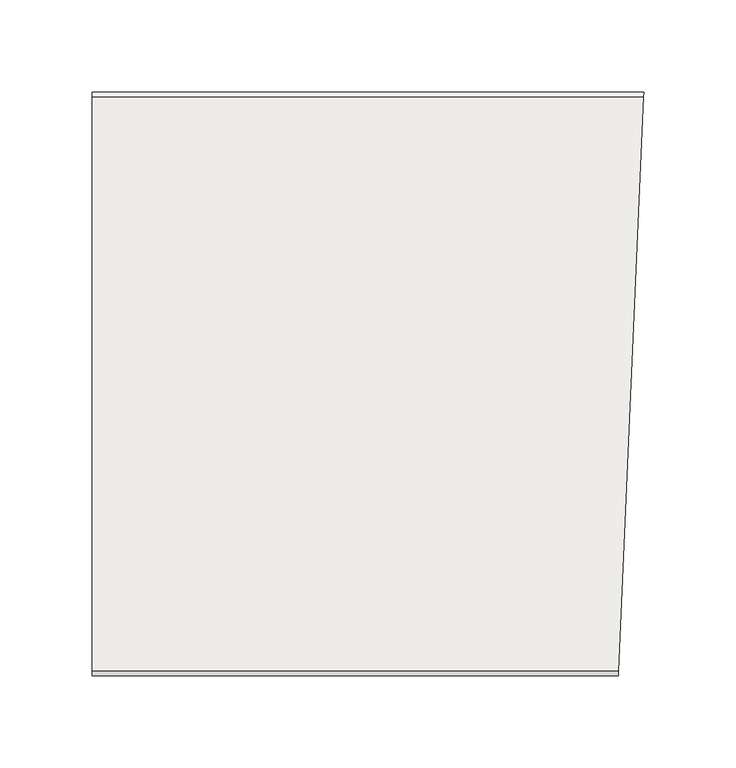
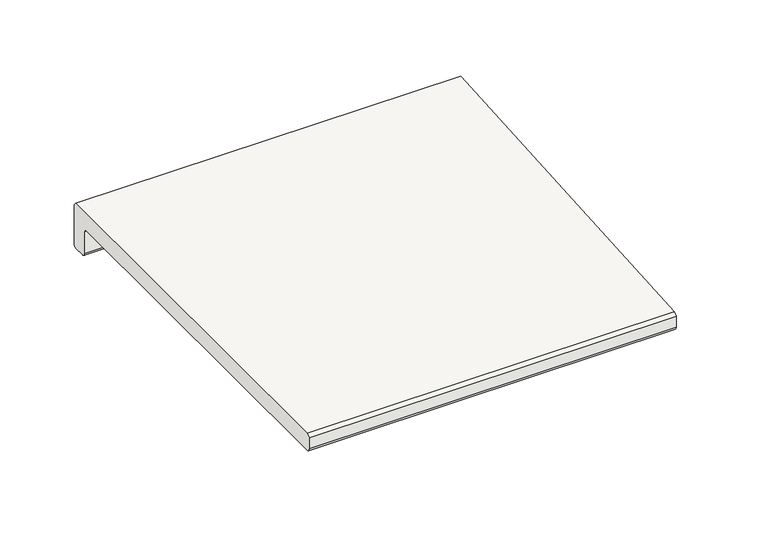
"""IFC4 building model written with IfcOpenShell, lengths in millimetres: slab geometry, ROSA GRES_L62 (corte) : Pieza L62_Serena_Ocra_Anti-Slip."""

from ifc_helpers import new_model, si_unit, frame, origin, place, context, project, spatial, polyline, circle_curve, ellipse_curve, source, transform, mapped, element, save
from ifc_brep_helpers import plane_surface, cylinder_surface, revolved_surface, advanced_brep


def slab_ac410272(model_context):
    return source(origin(), model_context, "Body", "AdvancedBrep", [
        advanced_brep(
        [(0.0, 0.0, -20.5), (0.0, -2.5, -23.0), (0.0, -11.5, -23.0), (0.0, -14.0, -20.5), (0.0, -14.0, -2.5), (0.0, -16.5, 0.0), (0.0, -314.5, 0.0), (0.0, -317.0, 2.5), (0.0, -317.0, 11.5), (0.0, -314.5, 14.0), (0.0, -2.5, 14.0), (0.0, 0.0, 11.5), (299.6725429, -2.5, 14.0), (299.7816953, 0.0, 11.5), (285.9411764, -317.0, 11.5), (286.0503287, -314.5, 14.0), (299.6725429, -2.5, -23.0), (299.2795944, -11.5, -23.0), (286.0503287, -314.5, 0.0), (285.9411764, -317.0, 2.5), (299.7816953, 0.0, -20.5), (299.1704421, -14.0, -20.5), (299.0612897, -16.5, 0.0), (299.1704421, -14.0, -2.5)],
        [
            (0, 1, circle_curve(frame((0.0, -2.5, -20.5), z_axis=(-1.0, 0.0, 0.0), x_axis=(0.0, 0.0, -1.0)), 2.5)),
            (1, 2),
            (2, 3, circle_curve(frame((0.0, -11.5, -20.5), z_axis=(-1.0, 0.0, 0.0), x_axis=(0.0, 0.0, -1.0)), 2.5)),
            (3, 4),
            (4, 5, circle_curve(frame((0.0, -16.5, -2.5), z_axis=(1.0, 0.0, 0.0), x_axis=(0.0, 0.0, -1.0)), 2.5)),
            (5, 6),
            (6, 7, circle_curve(frame((0.0, -314.5, 2.5), z_axis=(-1.0, 0.0, 0.0), x_axis=(0.0, 0.0, -1.0)), 2.5)),
            (7, 8),
            (8, 9),
            (9, 10),
            (10, 11),
            (11, 0),
            (10, 12),
            (12, 13),
            (13, 11),
            (8, 14),
            (14, 15),
            (15, 9),
            (1, 16),
            (16, 17),
            (17, 2),
            (6, 18),
            (18, 19, ellipse_curve(frame((286.0503287, -314.5, 2.5), z_axis=(-0.9990482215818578, 0.04361938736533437, 0.0), x_axis=(-0.04361938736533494, -0.9990482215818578, 0.0)), 2.5023817, 2.5)),
            (19, 7),
            (19, 14),
            (13, 20),
            (20, 0),
            (20, 16, ellipse_curve(frame((299.6725429, -2.5, -20.5), z_axis=(-0.9990482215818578, 0.04361938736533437, 0.0), x_axis=(-0.04361938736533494, -0.9990482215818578, 0.0)), 2.5023817, 2.5)),
            (17, 21, ellipse_curve(frame((299.2795944, -11.5, -20.5), z_axis=(-0.9990482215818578, 0.04361938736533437, 0.0), x_axis=(-0.04361938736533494, -0.9990482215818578, 0.0)), 2.5023817, 2.5)),
            (21, 3),
            (15, 12),
            (5, 22),
            (22, 18),
            (4, 23),
            (23, 22, ellipse_curve(frame((299.0612897, -16.5, -2.5), z_axis=(0.9990482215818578, -0.04361938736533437, 0.0), x_axis=(0.04361938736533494, 0.9990482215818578, 0.0)), 2.5023817, 2.5)),
            (21, 23),
        ],
        [
            plane_surface(frame((0.0, 0.0, 0.0), z_axis=(-1.0, 0.0, 0.0), x_axis=(0.0, 0.0, 1.0))),
            plane_surface(frame((0.0, 0.0, 11.5), z_axis=(0.0, 0.707106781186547, 0.7071067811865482), x_axis=(1.0, 0.0, 0.0))),
            plane_surface(frame((0.0, -314.5, 14.0), z_axis=(0.0, -0.707106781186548, 0.707106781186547), x_axis=(1.0, 0.0, 0.0))),
            plane_surface(frame((0.0, -11.5, -23.0), z_axis=(0.0, 0.0, -1.0), x_axis=(1.0, 0.0, 0.0))),
            cylinder_surface(frame((0.0, -314.5, 2.5), z_axis=(-1.0, 0.0, 0.0), x_axis=(0.0, 0.0, -1.0)), 2.5),
            plane_surface(frame((0.0, -317.0, 11.5), z_axis=(0.0, -1.0, 0.0), x_axis=(1.0, 0.0, 0.0))),
            plane_surface(frame((0.0, 0.0, -20.5), z_axis=(0.0, 1.0, 0.0), x_axis=(1.0, 0.0, 0.0))),
            cylinder_surface(frame((0.0, -2.5, -20.5), z_axis=(-1.0, 0.0, 0.0), x_axis=(0.0, 0.0, -1.0)), 2.5),
            cylinder_surface(frame((0.0, -11.5, -20.5), z_axis=(-1.0, 0.0, 0.0), x_axis=(0.0, 0.0, -1.0)), 2.5),
            plane_surface(frame((0.0, -2.5, 14.0), z_axis=(0.0, 0.0, 1.0), x_axis=(1.0, 0.0, 0.0))),
            plane_surface(frame((0.0, -314.5, 0.0), z_axis=(0.0, 0.0, -1.0), x_axis=(1.0, 0.0, 0.0))),
            revolved_surface(polyline([(299.1704421, -16.5, -5.0), (0.0, -16.5, -5.0)]), (0.0, -16.5, -2.5), (1.0, 0.0, 0.0)),
            plane_surface(frame((0.0, -14.0, -2.5), z_axis=(0.0, -1.0, 0.0), x_axis=(1.0, 0.0, 0.0))),
            plane_surface(frame((285.7228717, -322.0, 86.9871832), z_axis=(0.9990482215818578, -0.04361938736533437, 0.0), x_axis=(0.0, 0.0, -1.0))),
        ],
        [
            (0, [[1, 2, 3, 4, 5, 6, 7, 8, 9, 10, 11, 12]]),
            (1, [[13, 14, 15, -11]]),
            (2, [[16, 17, 18, -9]]),
            (3, [[19, 20, 21, -2]]),
            (4, [[22, 23, 24, -7]]),
            (5, [[-24, 25, -16, -8]]),
            (6, [[-15, 26, 27, -12]]),
            (7, [[-27, 28, -19, -1]]),
            (8, [[-21, 29, 30, -3]]),
            (9, [[-18, 31, -13, -10]]),
            (10, [[32, 33, -22, -6]]),
            (11, [[34, 35, -32, -5]]),
            (12, [[-30, 36, -34, -4]]),
            (13, [[-14, -31, -17, -25, -23, -33, -35, -36, -29, -20, -28, -26]]),
        ],
    ),
    ])


if __name__ == "__main__":
    model = new_model("IFC4")
    model_context = context("Model", 3, world=origin())
    ifc_project = project(units=[si_unit("LENGTHUNIT", "METRE", prefix="MILLI")], contexts=[model_context])
    site = spatial("IfcSite", under=ifc_project)
    building = spatial("IfcBuilding", under=site)
    placement = place(None, origin())
    slab_shape = slab_ac410272(model_context)
    element("IfcSlab", 1, ObjectType="ROSA GRES_L62 (corte) : Pieza L62_Serena_Ocra_Anti-Slip", at=placement, inside=building, context=model_context, shape_type="MappedRepresentation", body=[
        mapped(slab_shape, transform((0.0, 0.0, 0.0), x_axis=(1.0, 0.0, 0.0), y_axis=(0.0, 1.0, 0.0), z_axis=(0.0, 0.0, 1.0))),
    ])
    save(model, "model.ifc")
